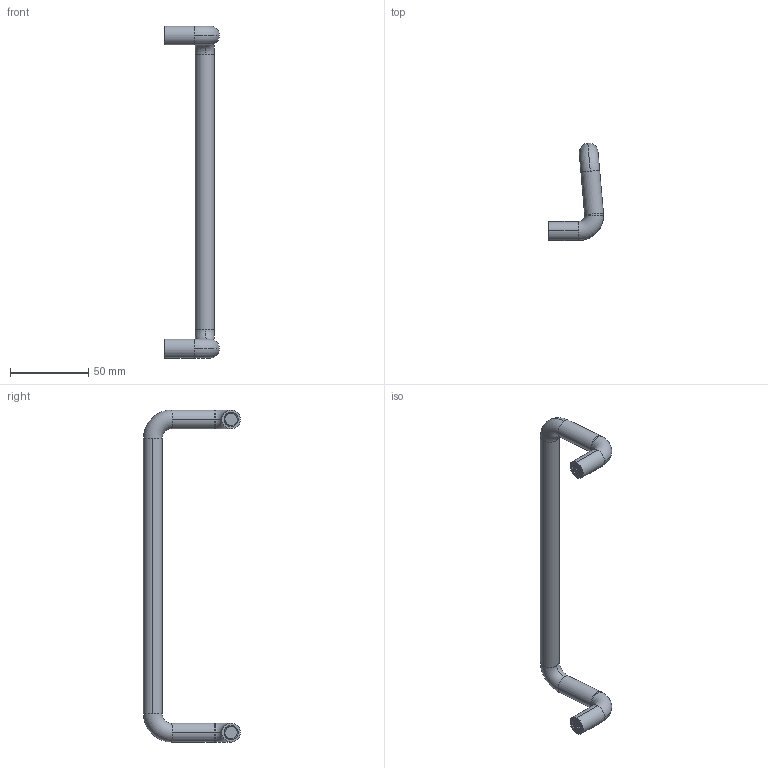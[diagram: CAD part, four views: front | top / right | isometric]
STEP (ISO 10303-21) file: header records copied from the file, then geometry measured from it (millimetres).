
FILE_DESCRIPTION (( 'STEP AP203' ), '1' );
FILE_NAME ('KA-1235-2.STEP', '2010-02-25T06:22:53', ( ' ' ), ( '' ), 'SwSTEP 2.0', 'SolidWorks 2010', '' );
FILE_SCHEMA (( 'CONFIG_CONTROL_DESIGN' ));
Length unit declared in the file: millimetre
Products named in the file (1): KA-1235-2
Bounding box: 35.09 x 61.99 x 212 mm (x, y, z)
Volume: 36764 mm3; surface area: 14227.6 mm2
Topology: 1 solids, 1 shells, 90 faces, 248 edges, 162 vertices
Faces by surface type: cylinder 60, torus 20, plane 6, bspline 4
Entity records: 8709 total; most frequent: CARTESIAN_POINT 6631, ORIENTED_EDGE 496, DIRECTION 370, EDGE_CURVE 248, VERTEX_POINT 162, AXIS2_PLACEMENT_3D 155, EDGE_LOOP 92, ADVANCED_FACE 90
